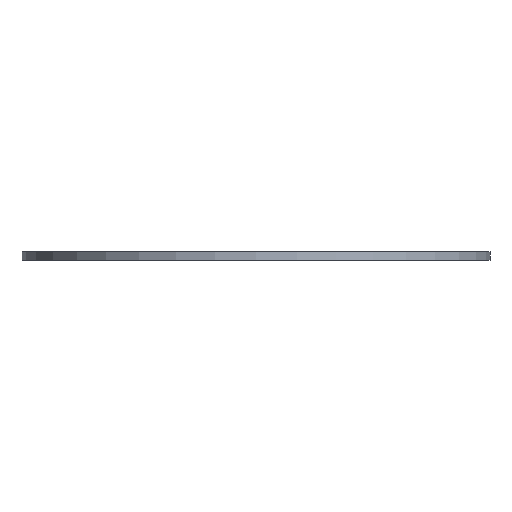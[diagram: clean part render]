
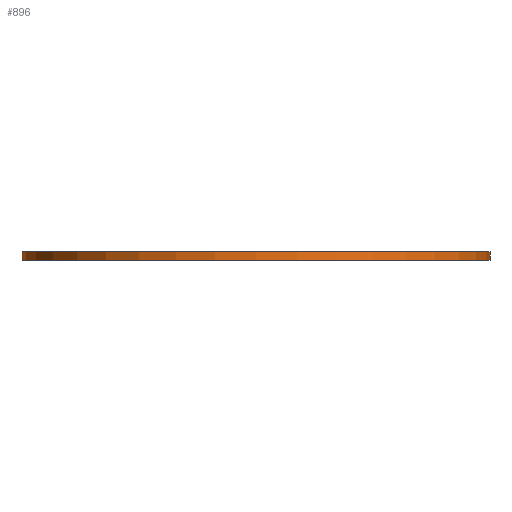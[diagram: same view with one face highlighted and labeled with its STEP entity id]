
A CAD part, front view. The second image highlights one B-rep face of the part: STEP entity #896.
In plain terms, the highlighted cylindrical face has radius 79 mm (diameter 158 mm), a partial arc.
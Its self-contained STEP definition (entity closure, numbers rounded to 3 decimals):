
#51 = AXIS2_PLACEMENT_3D ( 'NONE', #985, #1683, #308 ) ;
#71 = EDGE_CURVE ( 'NONE', #561, #1792, #1053, .T. ) ;
#103 = AXIS2_PLACEMENT_3D ( 'NONE', #1102, #151, #1541 ) ;
#151 = DIRECTION ( 'NONE',  ( 0., 0., -1. ) ) ;
#226 = AXIS2_PLACEMENT_3D ( 'NONE', #232, #248, #795 ) ;
#232 = CARTESIAN_POINT ( 'NONE',  ( 0., 0., 0. ) ) ;
#248 = DIRECTION ( 'NONE',  ( 0., 0., 1. ) ) ;
#280 = CIRCLE ( 'NONE', #51, 79. ) ;
#283 = EDGE_CURVE ( 'NONE', #1669, #1792, #1316, .T. ) ;
#299 = CARTESIAN_POINT ( 'NONE',  ( 79., 0., 0. ) ) ;
#308 = DIRECTION ( 'NONE',  ( 1., 0., 0. ) ) ;
#317 = ORIENTED_EDGE ( 'NONE', *, *, #283, .T. ) ;
#318 = ORIENTED_EDGE ( 'NONE', *, *, #1784, .F. ) ;
#494 = DIRECTION ( 'NONE',  ( 0., 0., -1. ) ) ;
#518 = CARTESIAN_POINT ( 'NONE',  ( -79., 0., 3. ) ) ;
#547 = CYLINDRICAL_SURFACE ( 'NONE', #103, 79. ) ;
#550 = CARTESIAN_POINT ( 'NONE',  ( 79., 0., 3. ) ) ;
#561 = VERTEX_POINT ( 'NONE', #550 ) ;
#756 = VECTOR ( 'NONE', #494, 1000. ) ;
#795 = DIRECTION ( 'NONE',  ( 1., 0., 0. ) ) ;
#808 = VERTEX_POINT ( 'NONE', #1647 ) ;
#896 = ADVANCED_FACE ( 'NONE', ( #1255 ), #547, .T. ) ;
#984 = VECTOR ( 'NONE', #1735, 1000. ) ;
#985 = CARTESIAN_POINT ( 'NONE',  ( 0., 0., 3. ) ) ;
#1037 = ORIENTED_EDGE ( 'NONE', *, *, #1411, .T. ) ;
#1053 = LINE ( 'NONE', #1317, #984 ) ;
#1102 = CARTESIAN_POINT ( 'NONE',  ( 0., 0., 3. ) ) ;
#1188 = LINE ( 'NONE', #518, #756 ) ;
#1253 = ORIENTED_EDGE ( 'NONE', *, *, #71, .F. ) ;
#1255 = FACE_OUTER_BOUND ( 'NONE', #1653, .T. ) ;
#1263 = CARTESIAN_POINT ( 'NONE',  ( -79., 0., 0. ) ) ;
#1316 = CIRCLE ( 'NONE', #226, 79. ) ;
#1317 = CARTESIAN_POINT ( 'NONE',  ( 79., 0., 3. ) ) ;
#1411 = EDGE_CURVE ( 'NONE', #808, #1669, #1188, .T. ) ;
#1541 = DIRECTION ( 'NONE',  ( -1., 0., 0. ) ) ;
#1647 = CARTESIAN_POINT ( 'NONE',  ( -79., 0., 3. ) ) ;
#1653 = EDGE_LOOP ( 'NONE', ( #1253, #318, #1037, #317 ) ) ;
#1669 = VERTEX_POINT ( 'NONE', #1263 ) ;
#1683 = DIRECTION ( 'NONE',  ( 0., 0., 1. ) ) ;
#1735 = DIRECTION ( 'NONE',  ( 0., 0., -1. ) ) ;
#1784 = EDGE_CURVE ( 'NONE', #808, #561, #280, .T. ) ;
#1792 = VERTEX_POINT ( 'NONE', #299 ) ;
